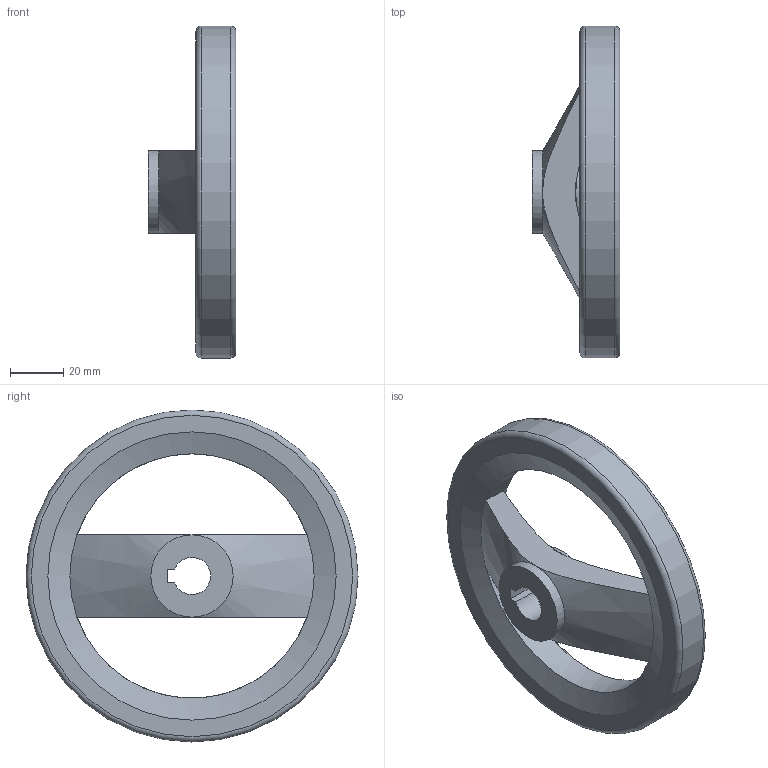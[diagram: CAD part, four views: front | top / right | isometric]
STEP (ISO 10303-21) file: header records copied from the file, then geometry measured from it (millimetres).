
FILE_DESCRIPTION( ( 'STEP AP203' ), '1' );
FILE_NAME( 'C:/Temp/Ganter_Step_05_03_2020/data/1_3/gn_324/gn_324_k/gn_324_k_a/Handwheel, matt black GN 324-125-K14-A.stp', '2020-03-05T10:32:59', ( 'License CC BY-ND 4.0' ), ( 'CADENAS' ), ' ', 'PARTsolutions', ' ' );
FILE_SCHEMA( ( 'CONFIG_CONTROL_DESIGN' ) );
Length unit declared in the file: millimetre
Products named in the file (1): _Handwheel, matt black GN 324-125-K14-A
Bounding box: 33 x 125 x 125 mm (x, y, z)
Volume: 112729.3 mm3; surface area: 28478.9 mm2
Topology: 1 solids, 1 shells, 22 faces, 52 edges, 30 vertices
Faces by surface type: plane 9, cone 6, cylinder 5, torus 2
Full cylindrical faces by diameter (mm): 31 x2, 92 x1, 125 x1
Entity records: 756 total; most frequent: CARTESIAN_POINT 235, DIRECTION 102, ORIENTED_EDGE 86, AXIS2_PLACEMENT_3D 44, EDGE_CURVE 43, EDGE_LOOP 34, VERTEX_POINT 29, FACE_OUTER_BOUND 28
